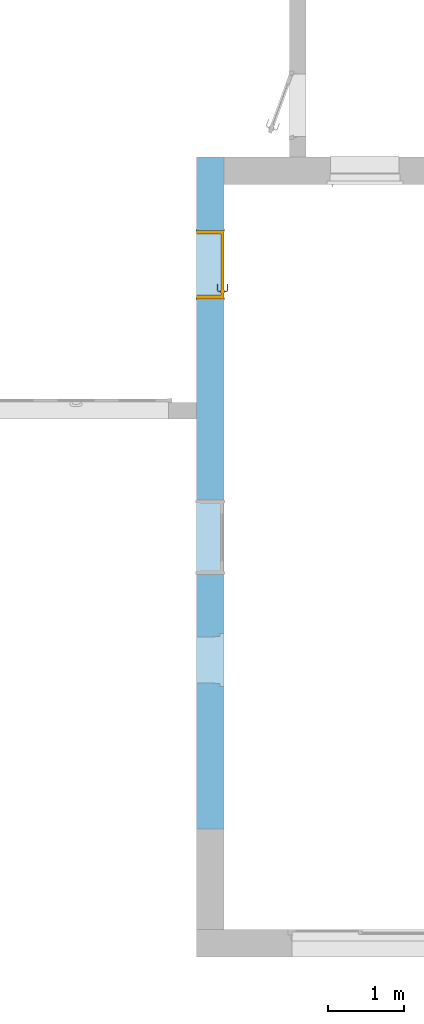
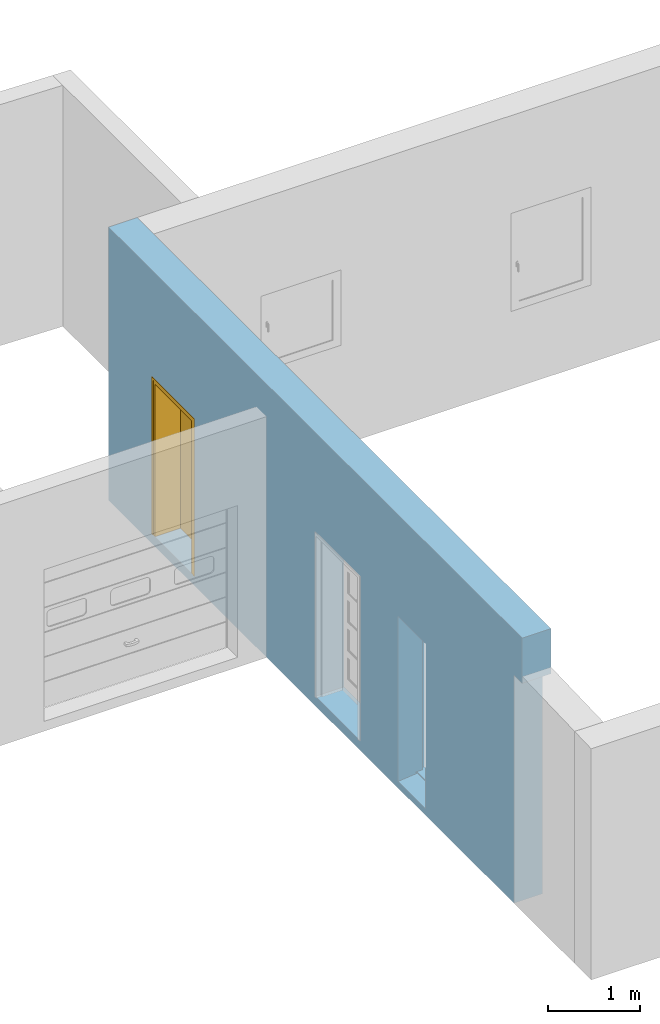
"""IFC2X3 building model written with IfcOpenShell, lengths in centimetres."""

from ifc_helpers import new_model, entity, si_unit, converted_unit, derived_unit, direction, frame, frame_2d, origin, place, context, subcontext, project, spatial, rectangle, extrude, faceted_brep, source, transform, mapped, material, material_list, layer, layer_set, type_object, type_shapes, element, fill, save


model = new_model("IFC2X3")

# Units and contexts
model_context = context("Model", 3, precision=0.001, world=origin(), true_north=direction((6.123031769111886e-17, 1.0)))
body_context = subcontext(model_context, "Body", "Model", "MODEL_VIEW")
ifc_project = project(units=[si_unit("LENGTHUNIT", "METRE", prefix="CENTI"), si_unit("AREAUNIT", "SQUARE_METRE"), si_unit("VOLUMEUNIT", "CUBIC_METRE"), converted_unit("PLANEANGLEUNIT", "DEGREE", entity("IfcRatioMeasure", 0.017453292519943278), si_unit("PLANEANGLEUNIT", "RADIAN"), dimensions=[0, 0, 0, 0, 0, 0, 0]), si_unit("MASSUNIT", "GRAM", prefix="KILO"), derived_unit("MASSDENSITYUNIT", [(si_unit("MASSUNIT", "GRAM", prefix="KILO"), 1), (si_unit("LENGTHUNIT", "METRE"), -3)]), derived_unit("MOMENTOFINERTIAUNIT", [(si_unit("LENGTHUNIT", "METRE"), 4)]), si_unit("TIMEUNIT", "SECOND"), si_unit("FREQUENCYUNIT", "HERTZ"), si_unit("THERMODYNAMICTEMPERATUREUNIT", "DEGREE_CELSIUS"), derived_unit("THERMALTRANSMITTANCEUNIT", [(si_unit("MASSUNIT", "GRAM", prefix="KILO"), 1), (si_unit("THERMODYNAMICTEMPERATUREUNIT", "KELVIN"), -1), (si_unit("TIMEUNIT", "SECOND"), -3)]), derived_unit("THERMALCONDUCTANCEUNIT", [(si_unit("MASSUNIT", "GRAM", prefix="KILO"), 1), (si_unit("LENGTHUNIT", "METRE"), 1), (si_unit("THERMODYNAMICTEMPERATUREUNIT", "KELVIN"), -1), (si_unit("TIMEUNIT", "SECOND"), -3)]), derived_unit("VOLUMETRICFLOWRATEUNIT", [(si_unit("LENGTHUNIT", "METRE"), 3), (si_unit("TIMEUNIT", "SECOND"), -1)]), derived_unit("MASSFLOWRATEUNIT", [(si_unit("MASSUNIT", "GRAM", prefix="KILO"), 1), (si_unit("TIMEUNIT", "SECOND"), -1)]), derived_unit("ROTATIONALFREQUENCYUNIT", [(si_unit("TIMEUNIT", "SECOND"), -1)]), si_unit("ELECTRICCURRENTUNIT", "AMPERE"), si_unit("ELECTRICVOLTAGEUNIT", "VOLT"), si_unit("POWERUNIT", "WATT"), si_unit("FORCEUNIT", "NEWTON", prefix="KILO"), si_unit("ILLUMINANCEUNIT", "LUX"), si_unit("LUMINOUSFLUXUNIT", "LUMEN"), si_unit("LUMINOUSINTENSITYUNIT", "CANDELA"), derived_unit("USERDEFINED", [(si_unit("MASSUNIT", "GRAM", prefix="KILO"), -1), (si_unit("LENGTHUNIT", "METRE"), -2), (si_unit("TIMEUNIT", "SECOND"), 3), (si_unit("LUMINOUSFLUXUNIT", "LUMEN"), 1)]), derived_unit("USERDEFINED", [(si_unit("MASSUNIT", "GRAM", prefix="KILO"), 1), (si_unit("LENGTHUNIT", "METRE"), 3), (si_unit("TIMEUNIT", "SECOND"), -3), (si_unit("ELECTRICCURRENTUNIT", "AMPERE"), -2)]), derived_unit("USERDEFINED", [(si_unit("LENGTHUNIT", "METRE"), 2), (si_unit("TIMEUNIT", "SECOND"), -2)]), derived_unit("SOUNDPOWERUNIT", [(si_unit("MASSUNIT", "GRAM", prefix="KILO"), 1), (si_unit("LENGTHUNIT", "METRE"), 2), (si_unit("TIMEUNIT", "SECOND"), -3)]), derived_unit("SOUNDPRESSUREUNIT", [(si_unit("MASSUNIT", "GRAM", prefix="KILO"), 1), (si_unit("LENGTHUNIT", "METRE"), -1), (si_unit("TIMEUNIT", "SECOND"), -2)]), derived_unit("LINEARVELOCITYUNIT", [(si_unit("LENGTHUNIT", "METRE"), 1), (si_unit("TIMEUNIT", "SECOND"), -1)]), si_unit("PRESSUREUNIT", "PASCAL"), derived_unit("USERDEFINED", [(si_unit("LENGTHUNIT", "METRE"), -2), (si_unit("MASSUNIT", "GRAM", prefix="KILO"), 1), (si_unit("TIMEUNIT", "SECOND"), -2)]), derived_unit("LINEARFORCEUNIT", [(si_unit("MASSUNIT", "GRAM", prefix="KILO"), 1), (si_unit("LENGTHUNIT", "METRE"), 1), (si_unit("TIMEUNIT", "SECOND"), -2), (si_unit("LENGTHUNIT", "METRE"), -1)]), derived_unit("PLANARFORCEUNIT", [(si_unit("MASSUNIT", "GRAM", prefix="KILO"), 1), (si_unit("LENGTHUNIT", "METRE"), 1), (si_unit("TIMEUNIT", "SECOND"), -2), (si_unit("LENGTHUNIT", "METRE"), -2)]), derived_unit("SPECIFICHEATCAPACITYUNIT", [(si_unit("LENGTHUNIT", "METRE"), 2), (si_unit("TIMEUNIT", "SECOND"), -2), (si_unit("THERMODYNAMICTEMPERATUREUNIT", "KELVIN"), -1)]), derived_unit("VAPORPERMEABILITYUNIT", [(si_unit("TIMEUNIT", "SECOND"), 1), (si_unit("LENGTHUNIT", "METRE"), -1)]), derived_unit("DYNAMICVISCOSITYUNIT", [(si_unit("MASSUNIT", "GRAM", prefix="KILO"), 1), (si_unit("LENGTHUNIT", "METRE"), -1), (si_unit("TIMEUNIT", "SECOND"), -1)]), derived_unit("THERMALEXPANSIONCOEFFICIENTUNIT", [(si_unit("THERMODYNAMICTEMPERATUREUNIT", "KELVIN"), -1)])], contexts=[model_context])

# Site, building, storey
site_placement = place(None, origin())
site = spatial("IfcSite", under=ifc_project, at=site_placement, Name="Default", CompositionType="ELEMENT")
building_placement = place(site_placement, origin())
building = spatial("IfcBuilding", under=site, at=building_placement, CompositionType="ELEMENT")
storey_1_placement = place(building_placement, frame((0.0, 0.0, -13.0)))
storey_1 = spatial("IfcBuildingStorey", under=building, at=storey_1_placement, Name="0_-0.13", CompositionType="ELEMENT", Elevation=-13.000000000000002)

# Wall, openings
ifc_material_1 = material(Name="Maçonnerie - Enduit")
ifc_layer_1 = layer(ifc_material_1, 2.0)
ifc_material_2 = material(Name="Maçonnerie - Béton")
ifc_layer_2 = layer(ifc_material_2, 20.0)
ifc_material_3 = material(Name="Mur par défaut")
ifc_layer_3 = layer(ifc_material_3, 14.0)
ifc_layer_set = layer_set([ifc_layer_1, ifc_layer_2, ifc_layer_3], Name="Mur de base:Mur extérieur 36cm")
wall_type = type_object("IfcWallType", Name="Mur de base:Mur extérieur 36cm", PredefinedType="STANDARD", material=ifc_layer_set)
wall_placement = place(storey_1_placement, frame((-704.0684437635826, -521.3533541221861, 0.0), z_axis=(0.0, 0.0, 1.0), x_axis=(0.0, 1.0, 0.0)))
wall = element("IfcWall", 1, at=wall_placement, inside=storey_1, type_object=wall_type, Name="Mur de base:Mur extérieur 36cm", ObjectType="Mur de base:Mur extérieur 36cm", context=body_context, shape_type="Brep", body=[
    faceted_brep([(18.0, -18.0, 0.0), (864.0, -18.0, 0.0), (900.0, -18.0, 0.0), (900.0, -18.0, 363.0), (864.0, -18.0, 363.0), (691.0, -18.0, 363.0), (684.0, -18.0, 363.0), (0.0, -18.0, 363.0), (0.0, -18.0, 311.99444598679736), (0.0, -18.0, 303.0), (18.0, -18.0, 303.0), (270.0, -18.0, 13.0), (210.0, -18.0, 13.0), (205.0, -18.0, 13.0), (205.0, -18.0, 233.0), (275.0, -18.0, 233.0), (275.0, -18.0, 13.0), (352.1899999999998, -18.0, 13.0), (352.1899999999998, -18.0, 231.80999999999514), (449.80999999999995, -18.0, 231.80999999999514), (449.80999999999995, -18.0, 13.0), (804.0, -18.0, 13.0), (714.0, -18.0, 13.0), (714.0, -18.0, 220.5), (804.0, -18.0, 220.5), (900.0, 18.0, 0.0), (578.0, 18.0, 0.0), (556.0, 18.0, 0.0), (18.0, 18.0, 0.0), (18.0, 18.0, 303.0), (0.0, 18.0, 303.0), (0.0, 18.0, 311.99444598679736), (0.0, 18.0, 363.0), (900.0, 18.0, 363.0), (210.0, 18.0, 228.0), (210.0, 18.0, 8.977498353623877), (270.0, 18.0, 8.97749835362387), (270.0, 18.0, 228.0), (352.18999999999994, 18.0, 231.80999999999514), (352.1899999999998, 18.0, 13.0), (449.81000000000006, 18.0, 13.0), (449.81000000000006, 18.0, 231.80999999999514), (804.0, 18.0, 13.0), (804.0, 18.0, 220.5), (714.0, 18.0, 220.5), (714.0, 18.0, 13.0), (210.0, -6.0, 13.0), (210.0, -6.0, 11.500000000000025), (210.0, -4.0, 228.0), (210.0, -4.0, 13.0), (270.0, -6.0, 11.500000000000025), (270.0, -6.0, 13.0), (270.0, -4.0, 13.0), (270.0, -4.0, 228.0), (209.0, -4.0, 13.0), (209.0, -13.0, 13.0), (205.0, -13.0, 13.0), (275.0, -13.0, 13.0), (271.0, -13.0, 13.0), (271.0, -4.0, 13.0), (205.0, -13.0, 233.0), (275.0, -13.0, 233.0), (209.0, -13.0, 229.0), (271.0, -13.0, 229.0), (209.0, -4.0, 229.0), (271.0, -4.0, 229.0)], [[[0, 1, 2, 3, 4, 5, 6, 7, 8, 9, 10], [11, 12, 13, 14, 15, 16], [17, 18, 19, 20], [21, 22, 23, 24]], [[25, 26, 27, 28, 29, 30, 31, 32, 33], [34, 35, 36, 37], [38, 39, 40, 41], [42, 43, 44, 45]], [[2, 1, 0, 28, 27, 26, 25]], [[7, 6, 5, 4, 3, 33, 32]], [[3, 2, 25, 33]], [[46, 47, 35, 34, 48, 49]], [[50, 51, 52, 53, 37, 36]], [[46, 49, 54, 55, 56, 13, 12, 11, 16, 57, 58, 59, 52, 51]], [[53, 48, 34, 37]], [[47, 50, 36, 35]], [[47, 46, 51, 50]], [[13, 56, 60, 14]], [[58, 57, 61, 60, 56, 55, 62, 63]], [[55, 54, 64, 62]], [[49, 48, 53, 52, 59, 65, 64, 54]], [[14, 60, 61, 15]], [[63, 62, 64, 65]], [[57, 16, 15, 61]], [[59, 58, 63, 65]], [[17, 39, 38, 18]], [[18, 38, 41, 19]], [[19, 41, 40, 20]], [[39, 17, 20, 40]], [[28, 0, 10, 29]], [[30, 29, 10, 9]], [[7, 32, 31, 30, 9, 8]], [[43, 42, 21, 24]], [[44, 43, 24, 23]], [[45, 44, 23, 22]], [[42, 45, 22, 21]]]),
])
opening_1_placement = place(wall_placement, frame((449.8100000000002, 18.0, 13.0)))
element("IfcOpeningElement", 2, at=opening_1_placement, cuts=wall, Name="Porte d'entrée gris:90 x 215 cm:1", ObjectType="Opening", context=body_context, shape_type="SweptSolid", body=[
    extrude(rectangle(XDim=218.8099999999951, YDim=97.62000000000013, at=frame_2d((109.40499999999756, 48.810000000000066), x_axis=(1.0, 0.0))), frame((0.0, 0.0, 0.0), z_axis=(0.0, -1.0, 0.0), x_axis=(0.0, 0.0, 1.0)), (0.0, 0.0, 1.0), 36.0),
])
opening_2_placement = place(wall_placement, frame((804.0, 18.0, 13.0)))
opening_2 = element("IfcOpeningElement", 3, at=opening_2_placement, cuts=wall, Name="Int. Simple:PP (0.83m x 2.04m):1", ObjectType="Opening", context=body_context, shape_type="SweptSolid", body=[
    extrude(rectangle(XDim=207.49999999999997, YDim=90.0, at=frame_2d((103.74999999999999, 45.0), x_axis=(1.0, 0.0))), frame((0.0, 0.0, 0.0), z_axis=(0.0, -1.0, 0.0), x_axis=(0.0, 0.0, 1.0)), (0.0, 0.0, 1.0), 36.0),
])

# Storey
storey_2_placement = place(building_placement, origin())
storey_2 = spatial("IfcBuildingStorey", under=building, at=storey_2_placement, Name="1_Rez-de-chaussée", CompositionType="ELEMENT", Elevation=0.0)

# Door
ifc_material_4 = material(Name="Finition Peinture - Blanc satiné")
ifc_material_5 = material(Name="Bois - Panneau de porte")
ifc_material_6 = material(Name="Bois - Cadre de porte")
ifc_material_list = material_list([ifc_material_4, ifc_material_5, ifc_material_6])
door_style = type_object("IfcDoorStyle", Name="Int. Simple:PP (0.83m x 2.04m)", ConstructionType="NOTDEFINED", OperationType="NOTDEFINED", ParameterTakesPrecedence=False, Sizeable=False, material=ifc_material_list)
shared_shape = source(origin(), body_context, "Body", "Brep", [
    faceted_brep([(10.535276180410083, -0.5000000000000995, 86.6003983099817), (11.499999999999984, -0.5000000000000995, 87.0), (11.499999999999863, -0.5000000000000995, 108.0), (10.535276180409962, -0.5000000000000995, 108.39960169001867), (9.499999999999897, -0.5000000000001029, 108.5358983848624), (8.46472381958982, -0.5000000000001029, 108.39960169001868), (7.499999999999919, -0.5000000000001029, 108.0), (7.500000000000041, -0.5000000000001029, 87.0), (8.464723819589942, -0.5000000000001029, 86.6003983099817), (9.500000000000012, -0.5000000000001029, 86.46410161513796), (10.535276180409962, 0.0, 108.39960169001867), (11.499999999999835, 0.0, 108.0), (11.499999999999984, 0.0, 87.0), (10.535276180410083, 0.0, 86.6003983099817), (9.500000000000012, 0.0, 86.46410161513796), (8.464723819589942, 0.0, 86.6003983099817), (7.499999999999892, 0.0, 87.0), (7.499999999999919, 0.0, 108.0), (8.46472381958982, 0.0, 108.39960169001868), (9.499999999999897, 0.0, 108.5358983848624)], [[[0, 1, 2, 3, 4, 5, 6, 7, 8, 9]], [[10, 11, 12, 13, 14, 15, 16, 17, 18, 19]], [[16, 15, 8, 7]], [[8, 15, 14, 9]], [[14, 13, 0, 9]], [[13, 12, 1, 0]], [[2, 1, 12, 11]], [[11, 10, 3, 2]], [[3, 10, 19, 4]], [[19, 18, 5, 4]], [[18, 17, 6, 5]], [[7, 6, 17, 16]]]),
    faceted_brep([(10.535276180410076, 4.0, 86.6003983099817), (11.499999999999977, 4.0, 87.0), (11.499999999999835, 4.0, 108.0), (10.535276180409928, 4.0, 108.39960169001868), (9.499999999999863, 4.0, 108.5358983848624), (8.4647238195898, 4.0, 108.39960169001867), (7.499999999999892, 4.0, 108.0), (7.500000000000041, 4.0, 87.0), (8.464723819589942, 4.0, 86.60039830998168), (9.500000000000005, 4.0, 86.46410161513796), (10.535276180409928, 4.499999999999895, 108.39960169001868), (11.49999999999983, 4.499999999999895, 108.0), (11.499999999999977, 4.499999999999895, 87.0), (10.535276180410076, 4.499999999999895, 86.6003983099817), (9.500000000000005, 4.499999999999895, 86.46410161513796), (8.464723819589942, 4.499999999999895, 86.60039830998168), (7.499999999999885, 4.499999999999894, 87.0), (7.499999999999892, 4.499999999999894, 108.0), (8.4647238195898, 4.499999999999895, 108.39960169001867), (9.499999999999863, 4.499999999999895, 108.5358983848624)], [[[0, 1, 2, 3, 4, 5, 6, 7, 8, 9]], [[10, 11, 12, 13, 14, 15, 16, 17, 18, 19]], [[11, 10, 3, 2]], [[3, 10, 19, 4]], [[19, 18, 5, 4]], [[18, 17, 6, 5]], [[7, 6, 17, 16]], [[16, 15, 8, 7]], [[8, 15, 14, 9]], [[14, 13, 0, 9]], [[13, 12, 1, 0]], [[2, 1, 12, 11]]]),
    faceted_brep([(9.297470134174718, -0.5000000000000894, 100.77804408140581), (9.702529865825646, -0.5000000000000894, 100.77804408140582), (10.100000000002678, -0.5000000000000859, 100.6999999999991), (10.100000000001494, -0.5000000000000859, 99.30000000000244), (9.702529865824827, -0.5000000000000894, 99.22195591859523), (9.297470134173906, -0.5000000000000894, 99.221955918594), (8.899999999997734, -0.5000000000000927, 99.29999999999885), (8.89999999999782, -0.5000000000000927, 100.69999999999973), (8.899999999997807, -3.2650950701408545, 100.69999999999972), (9.297470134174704, -3.100457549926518, 100.77804408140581), (10.902358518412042, -4.705345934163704, 100.77804408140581), (11.070139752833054, -4.30028620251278, 100.77804408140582), (9.702529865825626, -2.932676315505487, 100.77804408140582), (10.100000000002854, -2.76803879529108, 100.69999999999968), (10.100000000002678, -2.7680387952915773, 99.30000000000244), (9.702529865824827, -2.932676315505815, 99.22195591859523), (11.070139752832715, -4.300286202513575, 99.22195591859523), (10.902358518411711, -4.705345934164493, 99.221955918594), (9.297470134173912, -3.100457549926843, 99.221955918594), (8.899999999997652, -3.265095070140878, 99.29999999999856), (10.73772099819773, -5.102816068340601, 100.69999999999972), (11.234777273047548, -3.9028160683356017, 100.69999999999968), (11.23477727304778, -3.902816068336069, 99.30000000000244), (10.737720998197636, -5.102816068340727, 99.29999999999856), (19.501864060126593, -5.102816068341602, 99.2999999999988), (19.50186406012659, -4.705345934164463, 99.22195591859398), (19.50186406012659, -4.300286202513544, 99.2219559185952), (19.50186406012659, -3.9028160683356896, 99.30000000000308), (19.501864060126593, -3.902816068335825, 100.69999999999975), (19.501864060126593, -4.3002862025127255, 100.7780440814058), (19.501864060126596, -4.70534593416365, 100.77804408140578), (19.501864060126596, -5.102816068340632, 100.69999999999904), (14.730769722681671, -5.102816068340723, 100.69999999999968), (15.286001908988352, -4.502816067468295, 100.7878686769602), (15.368320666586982, -3.902816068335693, 100.6999999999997), (15.368320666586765, -3.9028160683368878, 99.30000000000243), (15.28600188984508, -4.502816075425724, 99.21213132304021), (14.730770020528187, -5.102816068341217, 99.2999999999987)], [[[0, 1, 2, 3, 4, 5, 6, 7]], [[8, 9, 0, 7]], [[9, 10, 11, 12, 1, 0]], [[12, 13, 2, 1]], [[3, 2, 13, 14]], [[14, 15, 4, 3]], [[15, 16, 17, 18, 5, 4]], [[18, 19, 6, 5]], [[7, 6, 19, 8]], [[20, 10, 9, 8]], [[11, 21, 13, 12]], [[14, 13, 21, 22]], [[22, 16, 15, 14]], [[17, 23, 19, 18]], [[8, 19, 23, 20]], [[24, 25, 26, 27, 28, 29, 30, 31]], [[32, 30, 33]], [[31, 30, 32]], [[10, 20, 32]], [[33, 34, 11]], [[21, 11, 34]], [[34, 29, 28]], [[30, 29, 33]], [[29, 34, 33]], [[10, 32, 33]], [[10, 33, 11]], [[22, 21, 34, 28, 27, 35]], [[35, 26, 36]], [[37, 36, 25]], [[22, 35, 16]], [[35, 27, 26]], [[24, 37, 25]], [[23, 17, 37]], [[37, 17, 36]], [[17, 16, 36]], [[16, 35, 36]], [[25, 36, 26]], [[20, 23, 37, 24, 31, 32]]]),
    faceted_brep([(9.297470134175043, 4.499999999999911, 100.77804408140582), (8.899999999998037, 4.499999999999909, 100.69999999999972), (8.899999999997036, 4.499999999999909, 99.29999999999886), (9.297470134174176, 4.499999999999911, 99.22195591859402), (9.702529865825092, 4.499999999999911, 99.22195591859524), (10.100000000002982, 4.499999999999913, 99.30000000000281), (10.100000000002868, 4.499999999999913, 100.69999999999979), (9.702529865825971, 4.499999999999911, 100.77804408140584), (10.10000000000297, 6.748520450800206, 99.30000000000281), (10.100000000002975, 6.748520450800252, 100.69999999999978), (9.70252986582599, 6.913157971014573, 100.77804408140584), (11.083890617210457, 8.294518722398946, 100.77804408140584), (10.916109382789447, 8.699578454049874, 100.77804408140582), (9.297470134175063, 7.080939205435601, 100.77804408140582), (8.899999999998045, 7.245576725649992, 100.69999999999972), (8.899999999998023, 7.245576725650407, 99.29999999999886), (9.29747013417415, 7.08093920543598, 99.22195591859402), (10.916109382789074, 8.699578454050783, 99.22195591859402), (11.083890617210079, 8.294518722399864, 99.22195591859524), (9.70252986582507, 6.9131579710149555, 99.22195591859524), (11.248528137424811, 7.897048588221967, 99.30000000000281), (11.248528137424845, 7.897048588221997, 100.69999999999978), (10.751471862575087, 9.097048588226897, 100.69999999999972), (10.751471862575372, 9.097048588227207, 99.29999999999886), (19.504578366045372, 7.897048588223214, 99.30000000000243), (19.50457836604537, 8.294518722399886, 99.22195591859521), (19.50457836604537, 8.699578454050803, 99.22195591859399), (19.50457836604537, 9.097048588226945, 99.29999999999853), (19.504578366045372, 9.097048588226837, 100.69999999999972), (19.504578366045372, 8.69957845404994, 100.7780440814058), (19.504578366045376, 8.29451872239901, 100.77804408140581), (19.504578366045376, 7.897048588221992, 100.69999999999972), (15.376552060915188, 7.897048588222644, 99.3000000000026), (15.376553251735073, 7.897048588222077, 100.69999999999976), (15.294234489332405, 8.497048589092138, 100.78786867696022), (14.744520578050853, 9.097048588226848, 100.69999999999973), (14.744520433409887, 9.097048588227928, 99.29999999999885), (15.29423451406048, 8.497048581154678, 99.21213132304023)], [[[0, 1, 2, 3, 4, 5, 6, 7]], [[6, 5, 8, 9]], [[9, 10, 7, 6]], [[10, 11, 12, 13, 0, 7]], [[13, 14, 1, 0]], [[2, 1, 14, 15]], [[15, 16, 3, 2]], [[16, 17, 18, 19, 4, 3]], [[19, 8, 5, 4]], [[9, 8, 20, 21]], [[21, 11, 10, 9]], [[12, 22, 14, 13]], [[15, 14, 22, 23]], [[23, 17, 16, 15]], [[18, 20, 8, 19]], [[24, 25, 26, 27, 28, 29, 30, 31]], [[21, 20, 32, 24, 31, 33]], [[33, 30, 34]], [[35, 34, 29]], [[21, 33, 11]], [[33, 31, 30]], [[28, 35, 29]], [[22, 12, 35]], [[35, 12, 34]], [[12, 11, 34]], [[11, 33, 34]], [[29, 34, 30]], [[22, 35, 28, 27, 36, 23]], [[36, 26, 37]], [[27, 26, 36]], [[17, 23, 36]], [[37, 32, 18]], [[20, 18, 32]], [[32, 25, 24]], [[26, 25, 37]], [[25, 32, 37]], [[17, 36, 37]], [[17, 37, 18]]]),
    faceted_brep([(3.4999999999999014, 4.0, 204.0), (86.49999999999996, 4.0, 204.0), (86.4999999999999, 4.0, 0.0), (3.4999999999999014, 4.0, 0.0), (3.4999999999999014, 0.0, 204.0), (3.4999999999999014, 0.0, 0.0), (86.4999999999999, 0.0, 0.0), (86.49999999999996, 0.0, 204.0)], [[[0, 1, 2, 3]], [[4, 5, 6, 7]], [[1, 0, 4, 7]], [[2, 1, 7, 6]], [[3, 2, 6, 5]], [[0, 3, 5, 4]]]),
    faceted_brep([(0.0, 0.0, 0.0), (0.0, 36.0, 0.0), (5.0, 36.0, 0.0), (5.0, 4.0, 0.0), (3.499999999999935, 4.0, 0.0), (3.499999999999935, 0.0, 0.0), (0.0, 0.0, 207.50000000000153), (0.0, 36.0, 207.50000000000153), (90.0, 36.0, 207.50000000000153), (90.0, 36.0, 0.0), (85.0, 36.0, 0.0), (85.0, 36.0, 202.49999999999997), (5.0, 36.0, 202.49999999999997), (5.0, 4.0, 202.49999999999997), (85.0, 4.0, 202.49999999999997), (85.0, 4.0, 0.0), (86.50000000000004, 4.0, 0.0), (86.50000000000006, 4.0, 204.0), (3.499999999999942, 4.0, 204.0), (3.499999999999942, 0.0, 204.0), (86.50000000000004, 0.0, 204.0), (86.50000000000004, 0.0, 0.0), (90.0, 0.0, 0.0), (90.0, 0.0, 207.50000000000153)], [[[0, 1, 2, 3, 4, 5]], [[1, 0, 6, 7]], [[2, 1, 7, 8, 9, 10, 11, 12]], [[3, 2, 12, 13]], [[4, 3, 13, 14, 15, 16, 17, 18]], [[5, 4, 18, 19]], [[0, 5, 19, 20, 21, 22, 23, 6]], [[8, 23, 22, 9]], [[22, 21, 16, 15, 10, 9]], [[14, 11, 10, 15]], [[20, 17, 16, 21]], [[7, 6, 23, 8]], [[13, 12, 11, 14]], [[19, 18, 17, 20]]]),
    faceted_brep([(1.4999999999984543, 36.0, 0.0), (-1.5000000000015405, 36.0, 0.0), (-1.5000000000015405, 36.5000000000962, 0.0), (1.4999999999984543, 36.5000000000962, 0.0), (1.4999999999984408, 36.0, 206.0), (88.49999999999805, 36.0, 206.0), (88.49999999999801, 36.0, 0.0), (91.49999999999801, 36.0, 0.0), (91.49999999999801, 36.0, 209.0), (-1.5000000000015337, 36.0, 209.0), (-1.5000000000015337, 36.5000000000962, 209.0), (91.49999999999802, 36.5000000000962, 209.0), (91.49999999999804, 36.5000000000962, 0.0), (88.49999999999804, 36.5000000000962, 0.0), (88.49999999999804, 36.5000000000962, 206.0), (1.4999999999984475, 36.5000000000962, 206.0)], [[[0, 1, 2, 3]], [[1, 0, 4, 5, 6, 7, 8, 9]], [[2, 1, 9, 10]], [[3, 2, 10, 11, 12, 13, 14, 15]], [[0, 3, 15, 4]], [[6, 13, 12, 7]], [[5, 14, 13, 6]], [[11, 8, 7, 12]], [[10, 9, 8, 11]], [[4, 15, 14, 5]]]),
    faceted_brep([(-1.5000000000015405, -0.499999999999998, 0.0), (1.4999999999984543, -0.499999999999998, 0.0), (1.4999999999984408, -0.499999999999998, 206.0), (88.49999999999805, -0.499999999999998, 206.0), (88.49999999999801, -0.499999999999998, 0.0), (91.49999999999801, -0.499999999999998, 0.0), (91.49999999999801, -0.499999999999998, 209.0), (-1.5000000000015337, -0.499999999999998, 209.0), (-1.5000000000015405, 0.0, 0.0), (-1.5000000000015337, 0.0, 209.0), (1.4999999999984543, 0.0, 0.0), (91.49999999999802, 0.0, 209.0), (91.49999999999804, 0.0, 0.0), (88.49999999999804, 0.0, 0.0), (88.49999999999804, 0.0, 206.0), (1.4999999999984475, 0.0, 206.0)], [[[0, 1, 2, 3, 4, 5, 6, 7]], [[8, 0, 7, 9]], [[10, 8, 9, 11, 12, 13, 14, 15]], [[1, 10, 15, 2]], [[3, 14, 13, 4]], [[11, 6, 5, 12]], [[9, 7, 6, 11]], [[2, 15, 14, 3]], [[4, 13, 12, 5]], [[1, 0, 8, 10]]]),
])
type_shapes(door_style, [shared_shape])
door_placement = place(opening_2_placement, frame((-90.0, -36.0, 0.0)))
door = element("IfcDoor", 4, at=door_placement, inside=storey_2, type_object=door_style, material=ifc_material_list, Name="Int. Simple:PP (0.83m x 2.04m)", ObjectType="Int. Simple:PP (0.83m x 2.04m)", OverallHeight=207.49999999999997, OverallWidth=90.00000000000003, context=body_context, shape_type="MappedRepresentation", body=[
    mapped(shared_shape, transform((0.0, 0.0, 0.0), scale=1.0)),
])

fill(opening_2, door)

save(model, "model.ifc")
